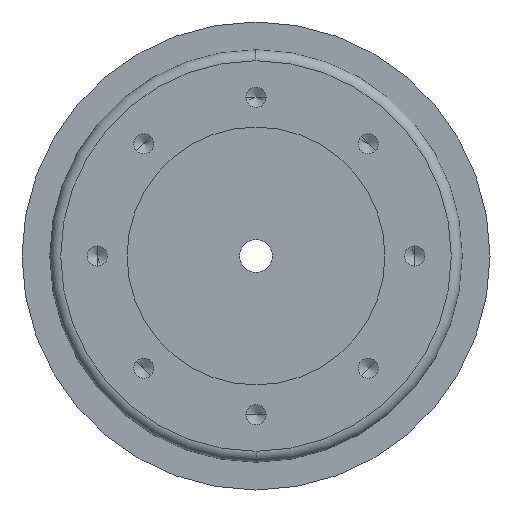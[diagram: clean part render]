
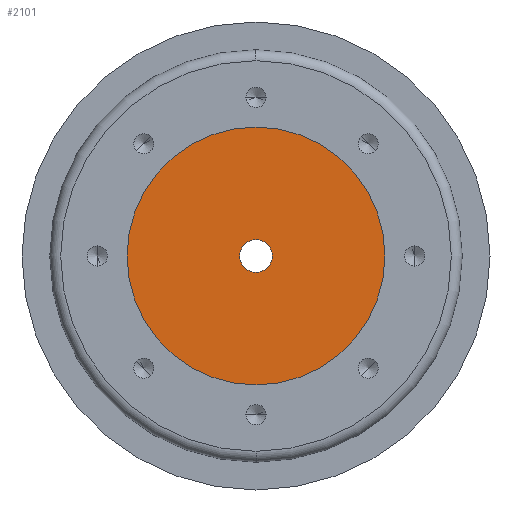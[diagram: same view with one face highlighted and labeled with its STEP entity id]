
A CAD part, left-side view. The second image highlights one B-rep face of the part: STEP entity #2101.
In plain terms, the highlighted planar face has unit normal (-1, 0, 0).
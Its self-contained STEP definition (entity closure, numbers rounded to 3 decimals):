
#535 = CARTESIAN_POINT ( 'NONE',  ( 20., 0., -8.25 ) ) ;
#1072 = CARTESIAN_POINT ( 'NONE',  ( 20., 0., -65. ) ) ;
#1083 = DIRECTION ( 'NONE',  ( 0., 0., 1. ) ) ;
#1084 = DIRECTION ( 'NONE',  ( -1., 0., 0. ) ) ;
#1085 = CARTESIAN_POINT ( 'NONE',  ( 20., 0., 0. ) ) ;
#1091 = AXIS2_PLACEMENT_3D ( 'NONE', #1085, #1084, #1083 ) ;
#1092 = CIRCLE ( 'NONE', #1091, 8.25 ) ;
#1202 = VERTEX_POINT ( 'NONE', #535 ) ;
#2014 = VERTEX_POINT ( 'NONE', #2984 ) ;
#2016 = EDGE_CURVE ( 'NONE', #1202, #2014, #2983, .T. ) ;
#2098 = EDGE_LOOP ( 'NONE', ( #3014, #3015 ) ) ;
#2100 = EDGE_CURVE ( 'NONE', #2163, #2995, #2843, .T. ) ;
#2101 = ADVANCED_FACE ( 'NONE', ( #2839, #2803 ), #2844, .F. ) ;
#2161 = EDGE_CURVE ( 'NONE', #2995, #2163, #2767, .T. ) ;
#2163 = VERTEX_POINT ( 'NONE', #2762 ) ;
#2762 = CARTESIAN_POINT ( 'NONE',  ( 20., 0., 65. ) ) ;
#2763 = DIRECTION ( 'NONE',  ( 0., 0., 1. ) ) ;
#2764 = DIRECTION ( 'NONE',  ( -1., 0., 0. ) ) ;
#2765 = CARTESIAN_POINT ( 'NONE',  ( 20., 0., 0. ) ) ;
#2766 = AXIS2_PLACEMENT_3D ( 'NONE', #2765, #2764, #2763 ) ;
#2767 = CIRCLE ( 'NONE', #2766, 65. ) ;
#2799 = DIRECTION ( 'NONE',  ( 0., 0., -1. ) ) ;
#2800 = DIRECTION ( 'NONE',  ( 1., 0., 0. ) ) ;
#2801 = CARTESIAN_POINT ( 'NONE',  ( 20., 65., 0. ) ) ;
#2802 = AXIS2_PLACEMENT_3D ( 'NONE', #2801, #2800, #2799 ) ;
#2803 = FACE_OUTER_BOUND ( 'NONE', #3016, .T. ) ;
#2827 = DIRECTION ( 'NONE',  ( 0., 0., 1. ) ) ;
#2828 = DIRECTION ( 'NONE',  ( -1., 0., 0. ) ) ;
#2829 = CARTESIAN_POINT ( 'NONE',  ( 20., 0., 0. ) ) ;
#2839 = FACE_BOUND ( 'NONE', #2098, .T. ) ;
#2840 = DIRECTION ( 'NONE',  ( 0., 0., 1. ) ) ;
#2841 = DIRECTION ( 'NONE',  ( -1., 0., 0. ) ) ;
#2842 = AXIS2_PLACEMENT_3D ( 'NONE', #2848, #2841, #2840 ) ;
#2843 = CIRCLE ( 'NONE', #2842, 65. ) ;
#2844 = PLANE ( 'NONE',  #2802 ) ;
#2848 = CARTESIAN_POINT ( 'NONE',  ( 20., 0., 0. ) ) ;
#2982 = AXIS2_PLACEMENT_3D ( 'NONE', #2829, #2828, #2827 ) ;
#2983 = CIRCLE ( 'NONE', #2982, 8.25 ) ;
#2984 = CARTESIAN_POINT ( 'NONE',  ( 20., 0., 8.25 ) ) ;
#2995 = VERTEX_POINT ( 'NONE', #1072 ) ;
#2997 = ORIENTED_EDGE ( 'NONE', *, *, #2161, .T. ) ;
#2998 = ORIENTED_EDGE ( 'NONE', *, *, #2100, .T. ) ;
#3014 = ORIENTED_EDGE ( 'NONE', *, *, #3017, .F. ) ;
#3015 = ORIENTED_EDGE ( 'NONE', *, *, #2016, .F. ) ;
#3016 = EDGE_LOOP ( 'NONE', ( #2998, #2997 ) ) ;
#3017 = EDGE_CURVE ( 'NONE', #2014, #1202, #1092, .T. ) ;
